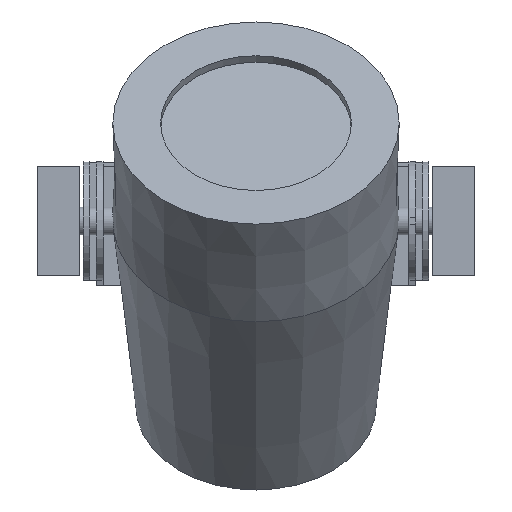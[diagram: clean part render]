
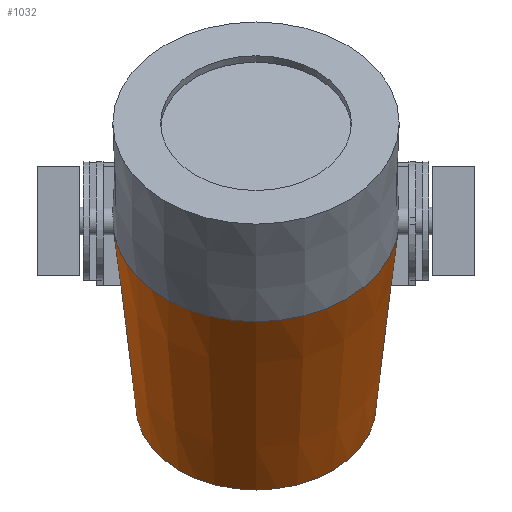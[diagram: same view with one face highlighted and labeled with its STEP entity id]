
A CAD part, top view. The second image highlights one B-rep face of the part: STEP entity #1032.
In plain terms, the highlighted conical face has half-angle 5.01 degrees and reference radius 40.04 mm.
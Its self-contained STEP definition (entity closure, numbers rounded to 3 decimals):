
#69=CONICAL_SURFACE('',#1249,40.04,0.087);
#115=FACE_OUTER_BOUND('',#175,.T.);
#175=EDGE_LOOP('',(#735,#736,#737,#738,#739,#740,#741));
#248=CIRCLE('',#1250,43.507);
#249=CIRCLE('',#1251,36.573);
#250=CIRCLE('',#1252,43.507);
#280=LINE('',#1728,#384);
#384=VECTOR('',#1366,40.04);
#487=B_SPLINE_CURVE_WITH_KNOTS('',3,(#1674,#1675,#1676,#1677,#1678,#1679,
#1680,#1681,#1682,#1683,#1684,#1685,#1686,#1687,#1688,#1689,#1690,#1691,
#1692,#1693,#1694,#1695,#1696),.UNSPECIFIED.,.F.,.F.,(4,3,2,2,2,2,2,2,2,
2,4),(2.555,2.568,2.728,2.887,
3.046,3.205,3.365,3.524,3.683,
3.843,3.846),.UNSPECIFIED.);
#489=B_SPLINE_CURVE_WITH_KNOTS('',3,(#1716,#1717,#1718,#1719),
 .UNSPECIFIED.,.F.,.F.,(4,4),(3.846,3.855),
 .UNSPECIFIED.);
#490=VERTEX_POINT('',#1672);
#491=VERTEX_POINT('',#1673);
#492=VERTEX_POINT('',#1697);
#494=VERTEX_POINT('',#1725);
#495=VERTEX_POINT('',#1727);
#585=EDGE_CURVE('',#490,#491,#487,.T.);
#587=EDGE_CURVE('',#491,#492,#489,.T.);
#590=EDGE_CURVE('',#492,#494,#248,.T.);
#591=EDGE_CURVE('',#494,#495,#280,.T.);
#592=EDGE_CURVE('',#495,#495,#249,.T.);
#593=EDGE_CURVE('',#494,#490,#250,.T.);
#735=ORIENTED_EDGE('',*,*,#590,.T.);
#736=ORIENTED_EDGE('',*,*,#591,.T.);
#737=ORIENTED_EDGE('',*,*,#592,.F.);
#738=ORIENTED_EDGE('',*,*,#591,.F.);
#739=ORIENTED_EDGE('',*,*,#593,.T.);
#740=ORIENTED_EDGE('',*,*,#585,.T.);
#741=ORIENTED_EDGE('',*,*,#587,.T.);
#1032=ADVANCED_FACE('',(#115),#69,.T.);
#1249=AXIS2_PLACEMENT_3D('',#1724,#1362,#1363);
#1250=AXIS2_PLACEMENT_3D('',#1726,#1364,#1365);
#1251=AXIS2_PLACEMENT_3D('',#1729,#1367,#1368);
#1252=AXIS2_PLACEMENT_3D('',#1730,#1369,#1370);
#1362=DIRECTION('center_axis',(0.,0.,1.));
#1363=DIRECTION('ref_axis',(0.,1.,0.));
#1364=DIRECTION('center_axis',(0.,0.,-1.));
#1365=DIRECTION('ref_axis',(1.,0.,0.));
#1366=DIRECTION('',(0.,0.088,-0.996));
#1367=DIRECTION('center_axis',(0.,0.,-1.));
#1368=DIRECTION('ref_axis',(1.,0.,0.));
#1369=DIRECTION('center_axis',(0.,0.,-1.));
#1370=DIRECTION('ref_axis',(1.,0.,0.));
#1672=CARTESIAN_POINT('',(-43.296,-4.249,-4.909));
#1673=CARTESIAN_POINT('',(-43.294,4.25,-5.));
#1674=CARTESIAN_POINT('Ctrl Pts',(-43.296,-4.249,-4.909));
#1675=CARTESIAN_POINT('Ctrl Pts',(-43.292,-4.25,-4.952));
#1676=CARTESIAN_POINT('Ctrl Pts',(-43.288,-4.25,-4.995));
#1677=CARTESIAN_POINT('Ctrl Pts',(-43.284,-4.25,-5.038));
#1678=CARTESIAN_POINT('Ctrl Pts',(-43.238,-4.245,-5.567));
#1679=CARTESIAN_POINT('Ctrl Pts',(-43.2,-4.135,-6.132));
#1680=CARTESIAN_POINT('Ctrl Pts',(-43.148,-3.697,-7.171));
#1681=CARTESIAN_POINT('Ctrl Pts',(-43.135,-3.369,-7.645));
#1682=CARTESIAN_POINT('Ctrl Pts',(-43.122,-2.615,-8.392));
#1683=CARTESIAN_POINT('Ctrl Pts',(-43.122,-2.138,-8.716));
#1684=CARTESIAN_POINT('Ctrl Pts',(-43.124,-1.095,-9.145));
#1685=CARTESIAN_POINT('Ctrl Pts',(-43.126,-0.529,
-9.25));
#1686=CARTESIAN_POINT('Ctrl Pts',(-43.127,0.532,-9.25));
#1687=CARTESIAN_POINT('Ctrl Pts',(-43.125,1.098,-9.144));
#1688=CARTESIAN_POINT('Ctrl Pts',(-43.125,2.141,-8.714));
#1689=CARTESIAN_POINT('Ctrl Pts',(-43.126,2.617,-8.39));
#1690=CARTESIAN_POINT('Ctrl Pts',(-43.14,3.371,-7.642));
#1691=CARTESIAN_POINT('Ctrl Pts',(-43.154,3.699,-7.168));
#1692=CARTESIAN_POINT('Ctrl Pts',(-43.206,4.136,-6.129));
#1693=CARTESIAN_POINT('Ctrl Pts',(-43.244,4.246,-5.564));
#1694=CARTESIAN_POINT('Ctrl Pts',(-43.292,4.25,-5.023));
#1695=CARTESIAN_POINT('Ctrl Pts',(-43.293,4.25,-5.012));
#1696=CARTESIAN_POINT('Ctrl Pts',(-43.294,4.25,-5.));
#1697=CARTESIAN_POINT('',(-43.302,4.249,-4.907));
#1716=CARTESIAN_POINT('Ctrl Pts',(-43.294,4.25,-5.));
#1717=CARTESIAN_POINT('Ctrl Pts',(-43.296,4.25,-4.969));
#1718=CARTESIAN_POINT('Ctrl Pts',(-43.299,4.25,-4.938));
#1719=CARTESIAN_POINT('Ctrl Pts',(-43.302,4.249,-4.907));
#1724=CARTESIAN_POINT('Origin',(0.,0.042,-44.459));
#1725=CARTESIAN_POINT('',(0.,-43.476,-4.921));
#1726=CARTESIAN_POINT('Origin',(0.,0.031,-4.908));
#1727=CARTESIAN_POINT('',(0.,-36.519,-84.021));
#1728=CARTESIAN_POINT('',(0.,-39.998,-44.471));
#1729=CARTESIAN_POINT('Origin',(0.,0.054,-84.011));
#1730=CARTESIAN_POINT('Origin',(0.,0.031,-4.908));
